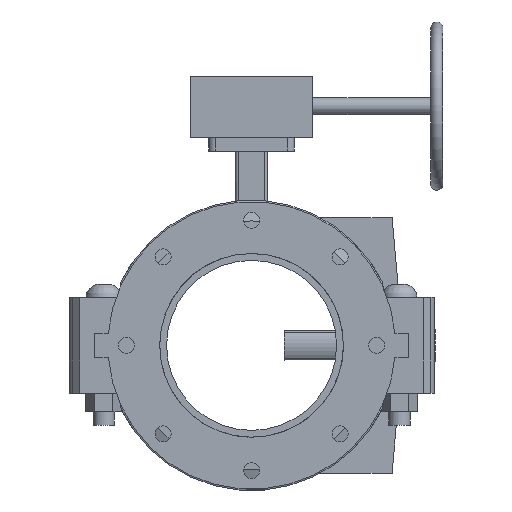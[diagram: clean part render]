
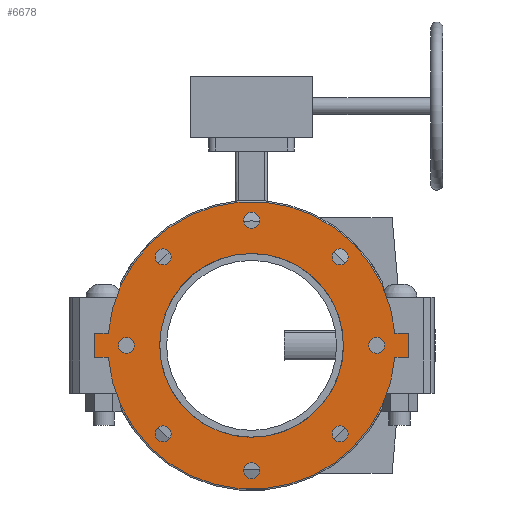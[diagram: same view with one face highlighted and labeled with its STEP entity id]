
A CAD part, front view. The second image highlights one B-rep face of the part: STEP entity #6678.
In plain terms, the highlighted planar face has unit normal (0, -1, 0) as drawn and (0, 0, -1) by its records, which use the part's own axes.
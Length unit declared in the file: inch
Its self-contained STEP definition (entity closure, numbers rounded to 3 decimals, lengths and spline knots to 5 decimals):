
#167=FACE_BOUND('',#863,.T.);
#168=FACE_BOUND('',#864,.T.);
#169=FACE_BOUND('',#865,.T.);
#170=FACE_BOUND('',#866,.T.);
#171=FACE_BOUND('',#867,.T.);
#172=FACE_BOUND('',#868,.T.);
#173=FACE_BOUND('',#869,.T.);
#174=FACE_BOUND('',#870,.T.);
#175=FACE_BOUND('',#871,.T.);
#259=PLANE('',#7281);
#492=FACE_OUTER_BOUND('',#862,.T.);
#862=EDGE_LOOP('',(#4310,#4311,#4312,#4313,#4314,#4315,#4316,#4317));
#863=EDGE_LOOP('',(#4318));
#864=EDGE_LOOP('',(#4319));
#865=EDGE_LOOP('',(#4320));
#866=EDGE_LOOP('',(#4321));
#867=EDGE_LOOP('',(#4322));
#868=EDGE_LOOP('',(#4323));
#869=EDGE_LOOP('',(#4324));
#870=EDGE_LOOP('',(#4325));
#871=EDGE_LOOP('',(#4326,#4327));
#1324=LINE('',#10164,#1814);
#1325=LINE('',#10166,#1815);
#1326=LINE('',#10168,#1816);
#1327=LINE('',#10172,#1817);
#1328=LINE('',#10174,#1818);
#1329=LINE('',#10175,#1819);
#1814=VECTOR('',#8107,0.3937);
#1815=VECTOR('',#8108,0.3937);
#1816=VECTOR('',#8109,0.3937);
#1817=VECTOR('',#8112,0.3937);
#1818=VECTOR('',#8113,0.3937);
#1819=VECTOR('',#8114,0.3937);
#2297=CIRCLE('',#7259,0.375);
#2299=CIRCLE('',#7262,0.375);
#2301=CIRCLE('',#7265,0.375);
#2303=CIRCLE('',#7268,0.375);
#2305=CIRCLE('',#7271,0.375);
#2307=CIRCLE('',#7274,0.375);
#2309=CIRCLE('',#7277,0.375);
#2311=CIRCLE('',#7280,0.375);
#2312=CIRCLE('',#7282,6.75);
#2313=CIRCLE('',#7283,6.75);
#2314=CIRCLE('',#7284,4.3125);
#2315=CIRCLE('',#7285,4.3125);
#2687=VERTEX_POINT('',#10114);
#2689=VERTEX_POINT('',#10120);
#2691=VERTEX_POINT('',#10126);
#2693=VERTEX_POINT('',#10132);
#2695=VERTEX_POINT('',#10138);
#2697=VERTEX_POINT('',#10144);
#2699=VERTEX_POINT('',#10150);
#2701=VERTEX_POINT('',#10156);
#2702=VERTEX_POINT('',#10160);
#2703=VERTEX_POINT('',#10161);
#2704=VERTEX_POINT('',#10163);
#2705=VERTEX_POINT('',#10165);
#2706=VERTEX_POINT('',#10167);
#2707=VERTEX_POINT('',#10169);
#2708=VERTEX_POINT('',#10171);
#2709=VERTEX_POINT('',#10173);
#2710=VERTEX_POINT('',#10176);
#2711=VERTEX_POINT('',#10177);
#3334=EDGE_CURVE('',#2687,#2687,#2297,.T.);
#3337=EDGE_CURVE('',#2689,#2689,#2299,.T.);
#3340=EDGE_CURVE('',#2691,#2691,#2301,.T.);
#3343=EDGE_CURVE('',#2693,#2693,#2303,.T.);
#3346=EDGE_CURVE('',#2695,#2695,#2305,.T.);
#3349=EDGE_CURVE('',#2697,#2697,#2307,.T.);
#3352=EDGE_CURVE('',#2699,#2699,#2309,.T.);
#3355=EDGE_CURVE('',#2701,#2701,#2311,.T.);
#3356=EDGE_CURVE('',#2702,#2703,#2312,.T.);
#3357=EDGE_CURVE('',#2703,#2704,#1324,.T.);
#3358=EDGE_CURVE('',#2704,#2705,#1325,.T.);
#3359=EDGE_CURVE('',#2705,#2706,#1326,.T.);
#3360=EDGE_CURVE('',#2706,#2707,#2313,.T.);
#3361=EDGE_CURVE('',#2707,#2708,#1327,.T.);
#3362=EDGE_CURVE('',#2708,#2709,#1328,.T.);
#3363=EDGE_CURVE('',#2709,#2702,#1329,.T.);
#3364=EDGE_CURVE('',#2710,#2711,#2314,.T.);
#3365=EDGE_CURVE('',#2711,#2710,#2315,.T.);
#4310=ORIENTED_EDGE('',*,*,#3356,.T.);
#4311=ORIENTED_EDGE('',*,*,#3357,.T.);
#4312=ORIENTED_EDGE('',*,*,#3358,.T.);
#4313=ORIENTED_EDGE('',*,*,#3359,.T.);
#4314=ORIENTED_EDGE('',*,*,#3360,.T.);
#4315=ORIENTED_EDGE('',*,*,#3361,.T.);
#4316=ORIENTED_EDGE('',*,*,#3362,.T.);
#4317=ORIENTED_EDGE('',*,*,#3363,.T.);
#4318=ORIENTED_EDGE('',*,*,#3334,.T.);
#4319=ORIENTED_EDGE('',*,*,#3337,.T.);
#4320=ORIENTED_EDGE('',*,*,#3340,.T.);
#4321=ORIENTED_EDGE('',*,*,#3343,.T.);
#4322=ORIENTED_EDGE('',*,*,#3346,.T.);
#4323=ORIENTED_EDGE('',*,*,#3349,.T.);
#4324=ORIENTED_EDGE('',*,*,#3352,.T.);
#4325=ORIENTED_EDGE('',*,*,#3355,.T.);
#4326=ORIENTED_EDGE('',*,*,#3364,.T.);
#4327=ORIENTED_EDGE('',*,*,#3365,.T.);
#6678=ADVANCED_FACE('',(#492,#167,#168,#169,#170,#171,#172,#173,#174,#175),
#259,.T.);
#7259=AXIS2_PLACEMENT_3D('',#10116,#8052,#8053);
#7262=AXIS2_PLACEMENT_3D('',#10122,#8059,#8060);
#7265=AXIS2_PLACEMENT_3D('',#10128,#8066,#8067);
#7268=AXIS2_PLACEMENT_3D('',#10134,#8073,#8074);
#7271=AXIS2_PLACEMENT_3D('',#10140,#8080,#8081);
#7274=AXIS2_PLACEMENT_3D('',#10146,#8087,#8088);
#7277=AXIS2_PLACEMENT_3D('',#10152,#8094,#8095);
#7280=AXIS2_PLACEMENT_3D('',#10158,#8101,#8102);
#7281=AXIS2_PLACEMENT_3D('',#10159,#8103,#8104);
#7282=AXIS2_PLACEMENT_3D('',#10162,#8105,#8106);
#7283=AXIS2_PLACEMENT_3D('',#10170,#8110,#8111);
#7284=AXIS2_PLACEMENT_3D('',#10178,#8115,#8116);
#7285=AXIS2_PLACEMENT_3D('',#10179,#8117,#8118);
#8052=DIRECTION('center_axis',(0.,0.,1.));
#8053=DIRECTION('ref_axis',(-0.707,0.707,0.));
#8059=DIRECTION('center_axis',(0.,0.,1.));
#8060=DIRECTION('ref_axis',(0.,1.,0.));
#8066=DIRECTION('center_axis',(0.,0.,1.));
#8067=DIRECTION('ref_axis',(0.707,0.707,0.));
#8073=DIRECTION('center_axis',(0.,0.,1.));
#8074=DIRECTION('ref_axis',(1.,0.,0.));
#8080=DIRECTION('center_axis',(0.,0.,1.));
#8081=DIRECTION('ref_axis',(0.707,-0.707,0.));
#8087=DIRECTION('center_axis',(0.,0.,1.));
#8088=DIRECTION('ref_axis',(0.,-1.,0.));
#8094=DIRECTION('center_axis',(0.,0.,1.));
#8095=DIRECTION('ref_axis',(-0.707,-0.707,0.));
#8101=DIRECTION('center_axis',(0.,0.,1.));
#8102=DIRECTION('ref_axis',(-1.,0.,0.));
#8103=DIRECTION('center_axis',(0.,0.,-1.));
#8104=DIRECTION('ref_axis',(-1.,0.,0.));
#8105=DIRECTION('center_axis',(0.,0.,-1.));
#8106=DIRECTION('ref_axis',(-1.,0.,0.));
#8107=DIRECTION('',(0.,1.,0.));
#8108=DIRECTION('',(1.,0.,0.));
#8109=DIRECTION('',(0.,-1.,0.));
#8110=DIRECTION('center_axis',(0.,0.,-1.));
#8111=DIRECTION('ref_axis',(-1.,0.,0.));
#8112=DIRECTION('',(0.,-1.,0.));
#8113=DIRECTION('',(-1.,0.,0.));
#8114=DIRECTION('',(0.,1.,0.));
#8115=DIRECTION('center_axis',(0.,0.,1.));
#8116=DIRECTION('ref_axis',(-1.,0.,0.));
#8117=DIRECTION('center_axis',(0.,0.,1.));
#8118=DIRECTION('ref_axis',(-1.,0.,0.));
#10114=CARTESIAN_POINT('',(-3.88909,3.88909,-0.565));
#10116=CARTESIAN_POINT('Origin',(-4.15425,4.15425,-0.565));
#10120=CARTESIAN_POINT('',(0.,5.5,-0.565));
#10122=CARTESIAN_POINT('Origin',(0.,5.875,-0.565));
#10126=CARTESIAN_POINT('',(3.88909,3.88909,-0.565));
#10128=CARTESIAN_POINT('Origin',(4.15425,4.15425,-0.565));
#10132=CARTESIAN_POINT('',(5.5,0.,-0.565));
#10134=CARTESIAN_POINT('Origin',(5.875,0.,-0.565));
#10138=CARTESIAN_POINT('',(3.88909,-3.88909,-0.565));
#10140=CARTESIAN_POINT('Origin',(4.15425,-4.15425,-0.565));
#10144=CARTESIAN_POINT('',(0.,-5.5,-0.565));
#10146=CARTESIAN_POINT('Origin',(0.,-5.875,-0.565));
#10150=CARTESIAN_POINT('',(-3.88909,-3.88909,-0.565));
#10152=CARTESIAN_POINT('Origin',(-4.15425,-4.15425,-0.565));
#10156=CARTESIAN_POINT('',(-5.5,0.,-0.565));
#10158=CARTESIAN_POINT('Origin',(-5.875,0.,-0.565));
#10159=CARTESIAN_POINT('Origin',(0.,0.,-0.565));
#10160=CARTESIAN_POINT('',(-0.565,-6.72631,-0.565));
#10161=CARTESIAN_POINT('',(-0.565,6.72631,-0.565));
#10162=CARTESIAN_POINT('Origin',(0.,0.,-0.565));
#10163=CARTESIAN_POINT('',(-0.565,7.375,-0.565));
#10164=CARTESIAN_POINT('',(-0.565,-7.375,-0.565));
#10165=CARTESIAN_POINT('',(0.565,7.375,-0.565));
#10166=CARTESIAN_POINT('',(-0.565,7.375,-0.565));
#10167=CARTESIAN_POINT('',(0.565,6.72631,-0.565));
#10168=CARTESIAN_POINT('',(0.565,7.375,-0.565));
#10169=CARTESIAN_POINT('',(0.565,-6.72631,-0.565));
#10170=CARTESIAN_POINT('Origin',(0.,0.,-0.565));
#10171=CARTESIAN_POINT('',(0.565,-7.375,-0.565));
#10172=CARTESIAN_POINT('',(0.565,7.375,-0.565));
#10173=CARTESIAN_POINT('',(-0.565,-7.375,-0.565));
#10174=CARTESIAN_POINT('',(0.565,-7.375,-0.565));
#10175=CARTESIAN_POINT('',(-0.565,-7.375,-0.565));
#10176=CARTESIAN_POINT('',(0.565,4.27533,-0.565));
#10177=CARTESIAN_POINT('',(4.3125,0.,-0.565));
#10178=CARTESIAN_POINT('Origin',(0.,0.,-0.565));
#10179=CARTESIAN_POINT('Origin',(0.,0.,-0.565));
